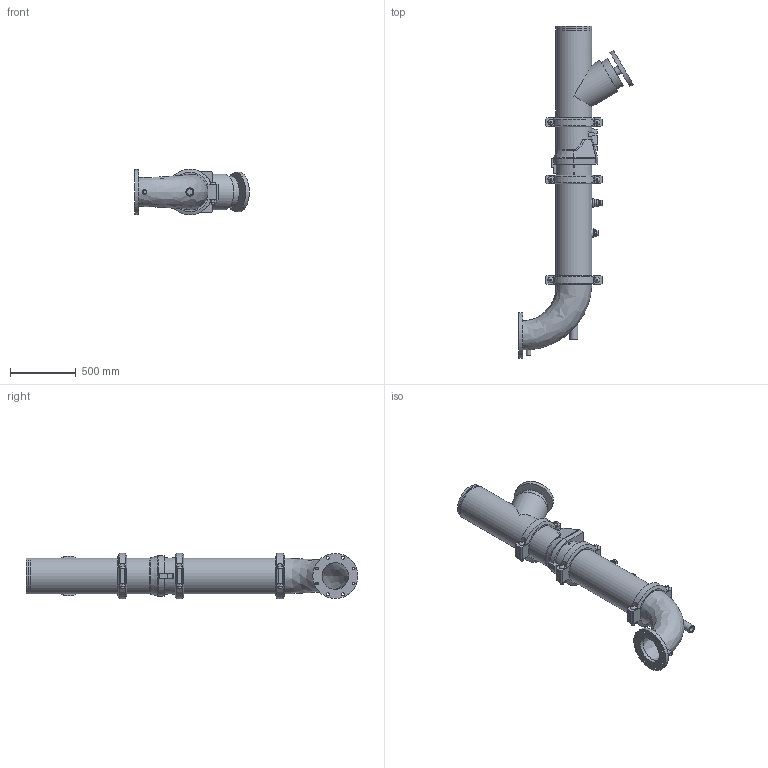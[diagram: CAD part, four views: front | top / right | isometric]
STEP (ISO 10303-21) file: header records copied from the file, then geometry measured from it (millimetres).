
FILE_DESCRIPTION(/* description */ ('VIC DVI PUMP DROP HORZ S/383 (OGSxFLG) (S/924-0.75)','CAx-IF Rec.Pracs.---Representation and Presentation of Product Manufacturing Information (PMI)---4.0---2014-10-13'),/* implementation_level */ '2;1');
FILE_NAME(/* name */ 'C:\Users\kkamble\AppData\Roaming\Autodesk\ApplicationPlugins\Victaulic.Temp\A821\CL 150_Series 383 (OGSxFLG)_924 (0.75)_10.0x08.0 (250x200).stp',/* time_stamp */ '2022-03-16T18:47:35+05:00',/* author */ ('kkamble'),/* organization */ ('Victaulic'),/* preprocessor_version */ 'ST-DEVELOPER v17.2',/* originating_system */ 'Autodesk Inventor 2019',/* authorisation */ '');
FILE_SCHEMA (('AP242_MANAGED_MODEL_BASED_3D_ENGINEERING_MIM_LF { 1 0 10303 442 1 1 4 }'));
Length unit declared in the file: inch
Products named in the file (8): 383_924 (0.75)-10.0x08.0; Pipe-10.0; 789-10.0; 779-10.0; 924-10.0x0.75; 923-10.0x0.75; R100F-10.0x08.0; 077-10.0
Assembly tree (9 placements, depth 2):
  383_924 (0.75)-10.0x08.0
    Pipe-10.0
    789-10.0
    779-10.0
    077-10.0  x3
    924-10.0x0.75
    923-10.0x0.75
    R100F-10.0x08.0
Bounding box: 869.95 x 2519.36 x 344.9 mm (x, y, z)
Volume: 48040460.1 mm3; surface area: 5833124.4 mm2
Topology: 9 solids, 15 shells, 433 faces, 1072 edges, 734 vertices
Faces by surface type: plane 255, cylinder 143, cone 17, bspline 12, torus 6
Full cylindrical faces by diameter (mm): 13.716 x4, 21.336 x1, 22.352 x8, 25.4 x12, 26.67 x3, 27.432 x6, 34.29 x1, 38.608 x1, 45.974 x4, 48.26 x1, 55.626 x2, 60.96 x2, 76.2 x1, 202.717 x1, 237.49 x1, 254.508 x4, 264.16 x3, 268.275 x7, 273.05 x18, 299.974 x1, 342.9 x1
Entity records: 11770 total; most frequent: CARTESIAN_POINT 3299, DIRECTION 1723, ORIENTED_EDGE 1564, EDGE_CURVE 782, AXIS2_PLACEMENT_3D 665, VERTEX_POINT 538, LINE 393, VECTOR 393
